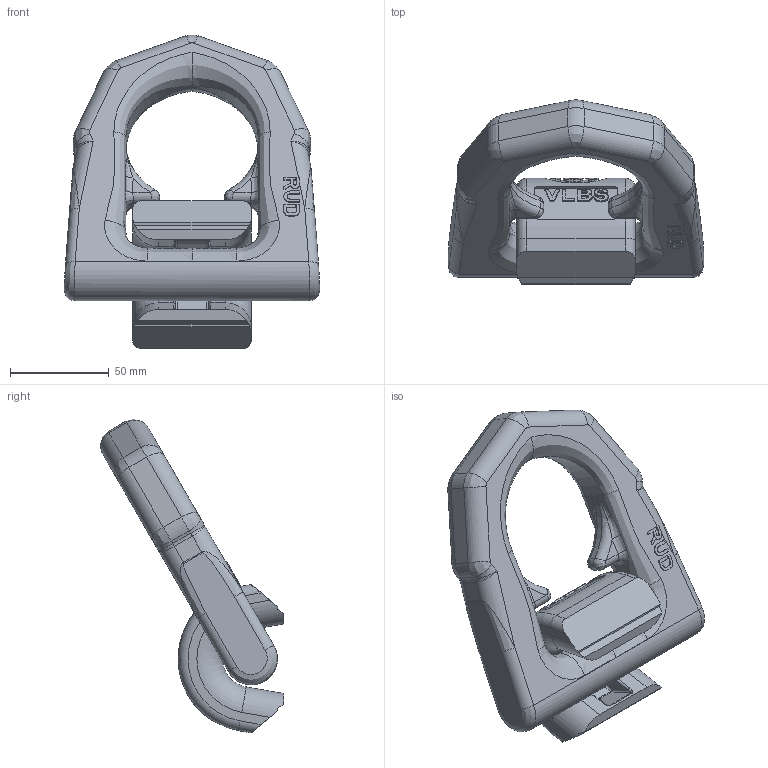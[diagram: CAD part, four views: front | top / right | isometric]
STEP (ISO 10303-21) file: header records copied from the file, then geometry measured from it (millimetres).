
FILE_DESCRIPTION((''),'2;1');
FILE_NAME('001-M32121-P4_ASM','2017-10-06T',('anja.joas'),(''),'PRO/ENGINEER BY PARAMETRIC TECHNOLOGY CORPORATION, 2011490','PRO/ENGINEER BY PARAMETRIC TECHNOLOGY CORPORATION, 2011490','');
FILE_SCHEMA(('CONFIG_CONTROL_DESIGN'));
Length unit declared in the file: millimetre
Products named in the file (3): 001-M32121-P2; 001-M34887-P01; 001-M32121-P4_ASM
Assembly tree (2 placements, depth 2):
  001-M32121-P4_ASM
    001-M32121-P2
    001-M34887-P01
Bounding box: 129.17 x 92.89 x 158.69 mm (x, y, z)
Volume: 367301.8 mm3; surface area: 57082.8 mm2
Topology: 2 solids, 2 shells, 427 faces, 1087 edges, 682 vertices
Faces by surface type: plane 161, cylinder 113, extrusion 73, bspline 60, torus 16, sphere 4
Entity records: 31095 total; most frequent: CARTESIAN_POINT 21403, ORIENTED_EDGE 2174, DIRECTION 1686, EDGE_CURVE 1087, VERTEX_POINT 682, VECTOR 584, AXIS2_PLACEMENT_3D 551, LINE 511
